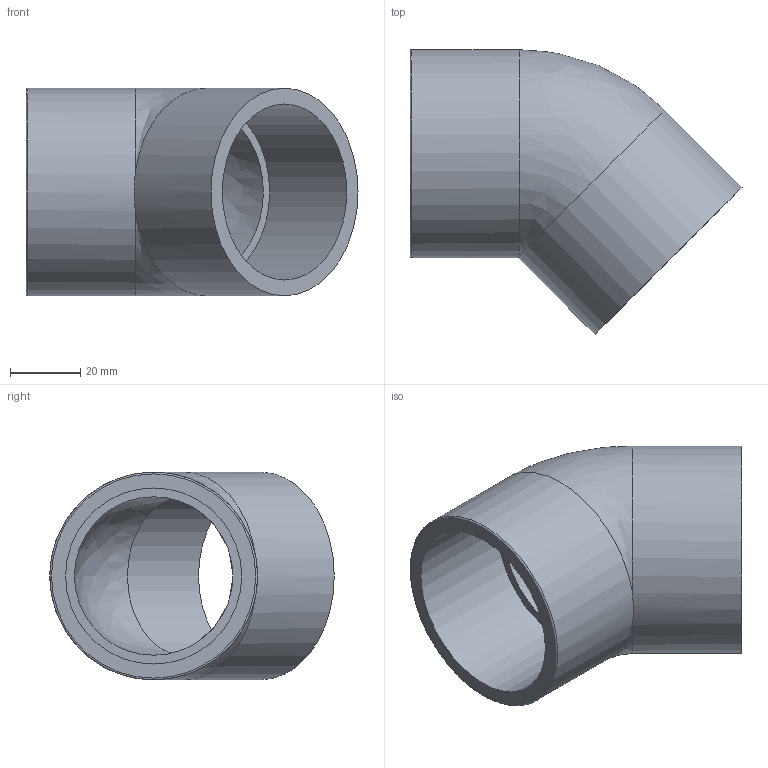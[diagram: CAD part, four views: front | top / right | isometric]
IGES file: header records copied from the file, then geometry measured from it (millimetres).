
Global section: file name: 054500050.ipt; native system: Autodesk Inventor 2015; preprocessor: unknown; author: KIM; date: 20171207.165607; units: millimetre
Bounding box: 94.27 x 80.77 x 59 mm (x, y, z)
Volume: 74588.4 mm3; surface area: 30921.6 mm2
Topology: 1 solids, 1 shells, 11 faces, 26 edges, 17 vertices
Faces by surface type: revolution 4, plane 4, cylinder 2, bspline 1
Full cylindrical faces by diameter (mm): 59 x2
